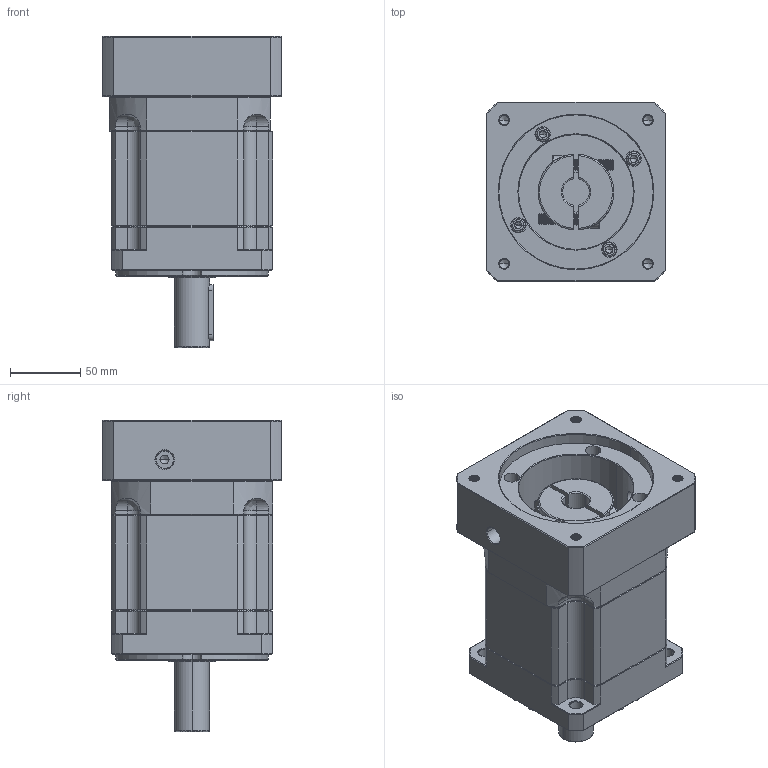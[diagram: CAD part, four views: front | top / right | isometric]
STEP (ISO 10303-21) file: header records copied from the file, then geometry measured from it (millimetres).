
FILE_DESCRIPTION (( 'STEP AP214' ), '1' );
FILE_NAME ('ZB115A-D25-L2-19-110-145-M8.step', '2023-03-02T08:56:54', ( '' ), ( 'Microsoft' ), 'SwSTEP 2.0', 'SolidWorks 2016', '' );
FILE_SCHEMA (( 'AUTOMOTIVE_DESIGN' ));
Length unit declared in the file: millimetre
Products named in the file (1): ZB115A-D25-L2-19-110-145-M8
Bounding box: 128 x 128 x 222 mm (x, y, z)
Volume: 1943233.9 mm3; surface area: 189963.2 mm2
Topology: 6 solids, 6 shells, 2113 faces, 5462 edges, 3443 vertices
Faces by surface type: plane 963, cylinder 439, cone 366, bspline 325, torus 20
Entity records: 113062 total; most frequent: CARTESIAN_POINT 41188, ORIENTED_EDGE 10856, DIRECTION 8901, EDGE_CURVE 5428, VERTEX_POINT 3443, VECTOR 3371, LINE 3371, AXIS2_PLACEMENT_3D 2765
